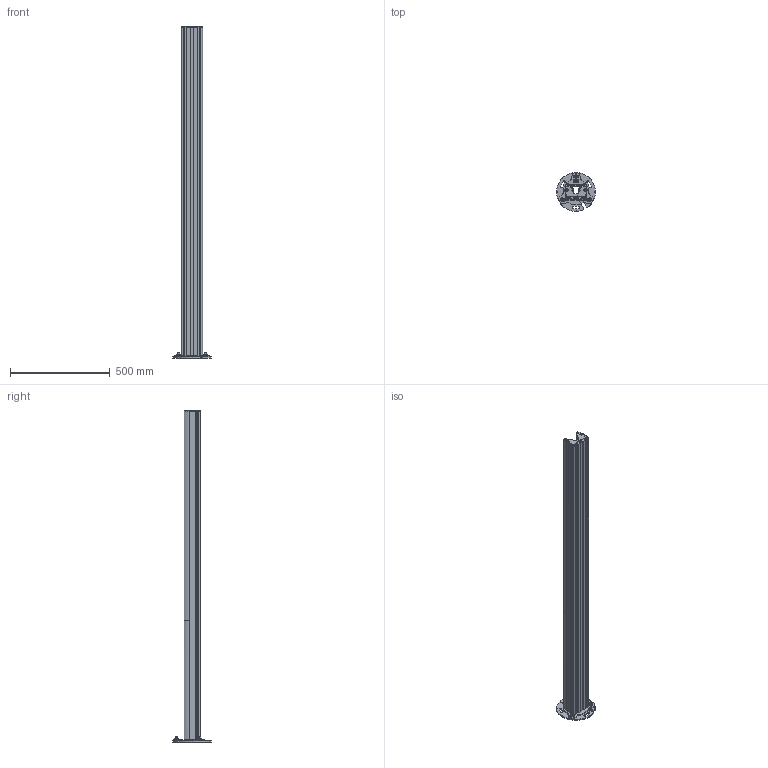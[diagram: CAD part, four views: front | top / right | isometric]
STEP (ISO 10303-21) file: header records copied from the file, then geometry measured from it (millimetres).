
FILE_DESCRIPTION((''),'2;1');
FILE_NAME('2011263','2012-09-07T',('rink'),(''),'PRO/ENGINEER BY PARAMETRIC TECHNOLOGY CORPORATION, 2011040','PRO/ENGINEER BY PARAMETRIC TECHNOLOGY CORPORATION, 2011040','');
FILE_SCHEMA(('AUTOMOTIVE_DESIGN_CC2 { 1 2 10303 214 -1 1 5 2 }'));
Products named in the file (1): 2011263
Bounding box: 194.91 x 194.91 x 1667.9 mm (x, y, z)
Surface area: 1756711.8 mm2
Topology: 5 solids, 177 shells, 1183 faces, 4196 edges, 3051 vertices
Faces by surface type: plane 557, cylinder 447, cone 107, torus 43, bspline 25, sphere 4
Entity records: 114240 total; most frequent: CARTESIAN_POINT 66112, DIRECTION 6677, ORIENTED_EDGE 6592, PRESENTATION_STYLE_ASSIGNMENT 4341, STYLED_ITEM 4336, CURVE_STYLE 4159, EDGE_CURVE 4154, VERTEX_POINT 3043
